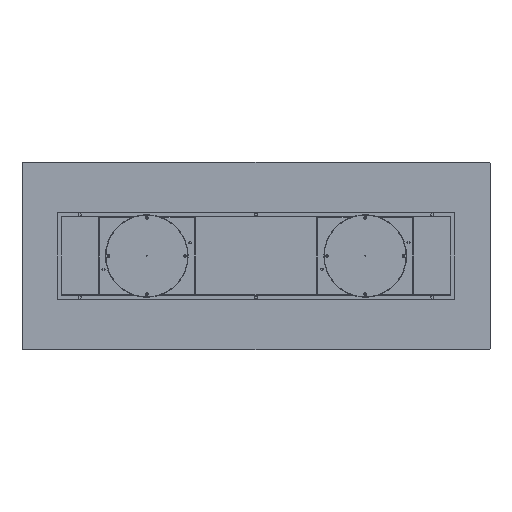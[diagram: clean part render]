
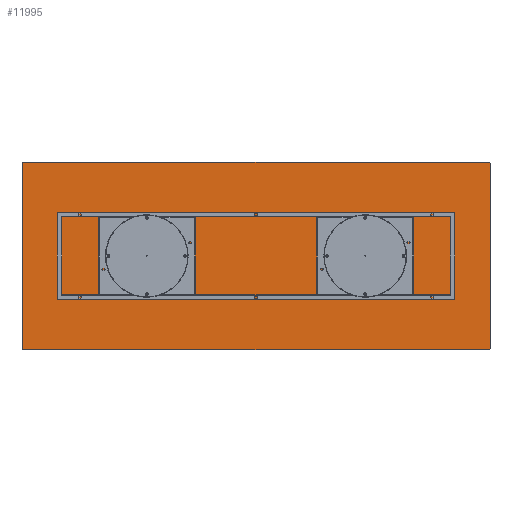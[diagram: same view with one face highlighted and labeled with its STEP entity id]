
A CAD part, front view. The second image highlights one B-rep face of the part: STEP entity #11995.
In plain terms, the highlighted planar face has unit normal (0, -1, 0).
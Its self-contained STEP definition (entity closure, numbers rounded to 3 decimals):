
#168 = VERTEX_POINT ( 'NONE', #6570 ) ;
#325 = LINE ( 'NONE', #392, #8371 ) ;
#392 = CARTESIAN_POINT ( 'NONE',  ( -1500., 0., -600. ) ) ;
#1219 = AXIS2_PLACEMENT_3D ( 'NONE', #5102, #2973, #7169 ) ;
#1266 = AXIS2_PLACEMENT_3D ( 'NONE', #5535, #3469, #11856 ) ;
#1307 = CIRCLE ( 'NONE', #7250, 5. ) ;
#1320 = CARTESIAN_POINT ( 'NONE',  ( -1500., 0., 600. ) ) ;
#1726 = VERTEX_POINT ( 'NONE', #9055 ) ;
#1853 = LINE ( 'NONE', #2753, #5254 ) ;
#2283 = CARTESIAN_POINT ( 'NONE',  ( 1500., 0., 595. ) ) ;
#2297 = LINE ( 'NONE', #1320, #4992 ) ;
#2753 = CARTESIAN_POINT ( 'NONE',  ( -1500., 0., -600. ) ) ;
#2973 = DIRECTION ( 'NONE',  ( 0., -1., 0. ) ) ;
#3031 = CARTESIAN_POINT ( 'NONE',  ( -1500., 0., 595. ) ) ;
#3247 = CIRCLE ( 'NONE', #11813, 5. ) ;
#3469 = DIRECTION ( 'NONE',  ( 0., -1., 0. ) ) ;
#3665 = CARTESIAN_POINT ( 'NONE',  ( 1500., 0., -595. ) ) ;
#3696 = EDGE_CURVE ( 'NONE', #1726, #12592, #8269, .T. ) ;
#4130 = ORIENTED_EDGE ( 'NONE', *, *, #12421, .F. ) ;
#4440 = VERTEX_POINT ( 'NONE', #10999 ) ;
#4608 = DIRECTION ( 'NONE',  ( -1., 0., 0. ) ) ;
#4818 = VERTEX_POINT ( 'NONE', #3665 ) ;
#4992 = VECTOR ( 'NONE', #5530, 1000. ) ;
#5102 = CARTESIAN_POINT ( 'NONE',  ( -1495., 0., 595. ) ) ;
#5225 = CIRCLE ( 'NONE', #1266, 5. ) ;
#5254 = VECTOR ( 'NONE', #9228, 1000. ) ;
#5263 = CARTESIAN_POINT ( 'NONE',  ( 1495., 0., 595. ) ) ;
#5308 = EDGE_CURVE ( 'NONE', #1726, #7790, #2297, .T. ) ;
#5335 = DIRECTION ( 'NONE',  ( 0., 0., 1. ) ) ;
#5530 = DIRECTION ( 'NONE',  ( 1., 0., 0. ) ) ;
#5535 = CARTESIAN_POINT ( 'NONE',  ( -1495., 0., -595. ) ) ;
#5567 = EDGE_CURVE ( 'NONE', #13412, #4818, #3247, .T. ) ;
#5742 = AXIS2_PLACEMENT_3D ( 'NONE', #5958, #12074, #13247 ) ;
#5844 = VERTEX_POINT ( 'NONE', #2283 ) ;
#5941 = ORIENTED_EDGE ( 'NONE', *, *, #9774, .F. ) ;
#5958 = CARTESIAN_POINT ( 'NONE',  ( 0., 0., 0. ) ) ;
#6007 = DIRECTION ( 'NONE',  ( 0., 0., 1. ) ) ;
#6570 = CARTESIAN_POINT ( 'NONE',  ( -1500., 0., -595. ) ) ;
#6839 = ORIENTED_EDGE ( 'NONE', *, *, #3696, .T. ) ;
#7106 = DIRECTION ( 'NONE',  ( 0., -1., 0. ) ) ;
#7169 = DIRECTION ( 'NONE',  ( 0., 0., 1. ) ) ;
#7250 = AXIS2_PLACEMENT_3D ( 'NONE', #5263, #13580, #5335 ) ;
#7290 = ORIENTED_EDGE ( 'NONE', *, *, #5308, .F. ) ;
#7790 = VERTEX_POINT ( 'NONE', #7897 ) ;
#7885 = FACE_OUTER_BOUND ( 'NONE', #9828, .T. ) ;
#7897 = CARTESIAN_POINT ( 'NONE',  ( 1495., 0., 600. ) ) ;
#7917 = VECTOR ( 'NONE', #11360, 1000. ) ;
#8269 = CIRCLE ( 'NONE', #1219, 5. ) ;
#8273 = CARTESIAN_POINT ( 'NONE',  ( 1495., 0., -595. ) ) ;
#8371 = VECTOR ( 'NONE', #4608, 1000. ) ;
#8816 = EDGE_CURVE ( 'NONE', #168, #4440, #5225, .T. ) ;
#8926 = PLANE ( 'NONE',  #5742 ) ;
#9055 = CARTESIAN_POINT ( 'NONE',  ( -1495., 0., 600. ) ) ;
#9070 = CARTESIAN_POINT ( 'NONE',  ( 1495., 0., -600. ) ) ;
#9228 = DIRECTION ( 'NONE',  ( 0., 0., 1. ) ) ;
#9309 = LINE ( 'NONE', #12254, #7917 ) ;
#9774 = EDGE_CURVE ( 'NONE', #168, #12592, #1853, .T. ) ;
#9828 = EDGE_LOOP ( 'NONE', ( #4130, #13378, #7290, #6839, #5941, #10699, #12234, #12367 ) ) ;
#10361 = EDGE_CURVE ( 'NONE', #5844, #7790, #1307, .T. ) ;
#10699 = ORIENTED_EDGE ( 'NONE', *, *, #8816, .T. ) ;
#10999 = CARTESIAN_POINT ( 'NONE',  ( -1495., 0., -600. ) ) ;
#11360 = DIRECTION ( 'NONE',  ( 0., 0., -1. ) ) ;
#11444 = EDGE_CURVE ( 'NONE', #13412, #4440, #325, .T. ) ;
#11813 = AXIS2_PLACEMENT_3D ( 'NONE', #8273, #7106, #6007 ) ;
#11856 = DIRECTION ( 'NONE',  ( 0., 0., 1. ) ) ;
#11995 = ADVANCED_FACE ( 'NONE', ( #7885 ), #8926, .F. ) ;
#12074 = DIRECTION ( 'NONE',  ( 0., 1., 0. ) ) ;
#12234 = ORIENTED_EDGE ( 'NONE', *, *, #11444, .F. ) ;
#12254 = CARTESIAN_POINT ( 'NONE',  ( 1500., 0., -600. ) ) ;
#12367 = ORIENTED_EDGE ( 'NONE', *, *, #5567, .T. ) ;
#12421 = EDGE_CURVE ( 'NONE', #5844, #4818, #9309, .T. ) ;
#12592 = VERTEX_POINT ( 'NONE', #3031 ) ;
#13247 = DIRECTION ( 'NONE',  ( 0., 0., 1. ) ) ;
#13378 = ORIENTED_EDGE ( 'NONE', *, *, #10361, .T. ) ;
#13412 = VERTEX_POINT ( 'NONE', #9070 ) ;
#13580 = DIRECTION ( 'NONE',  ( 0., -1., 0. ) ) ;
